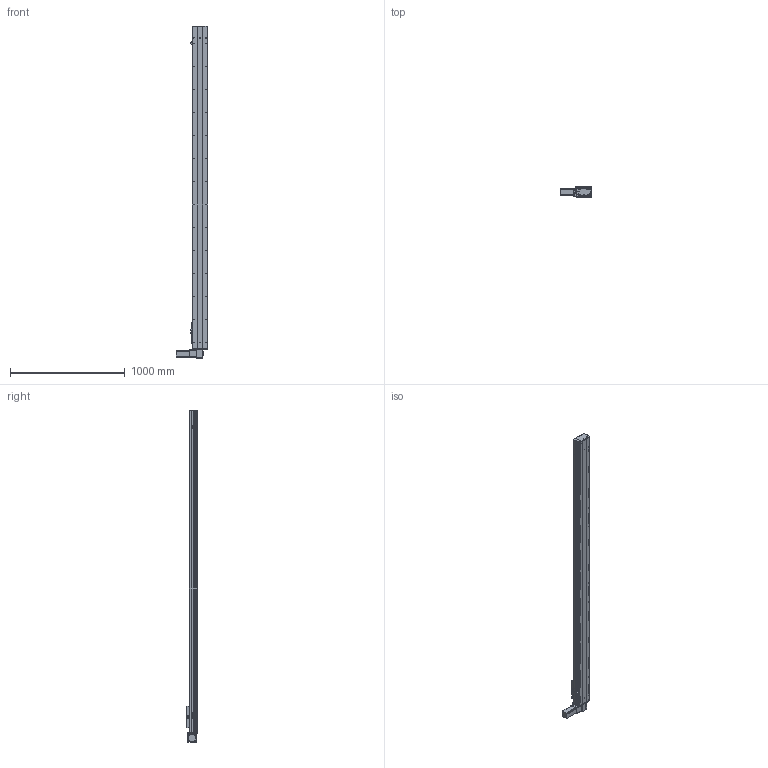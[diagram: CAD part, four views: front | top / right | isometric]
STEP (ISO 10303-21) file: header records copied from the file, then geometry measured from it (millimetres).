
FILE_DESCRIPTION (( 'STEP AP203' ), '1' );
FILE_NAME ('Y135CB-D90-S2500-BD-P400W.STEP', '2020-02-19T06:15:10', ( '微软用户' ), ( '微软中国' ), 'SwSTEP 2.0', 'SolidWorks 2017', '' );
FILE_SCHEMA (( 'CONFIG_CONTROL_DESIGN' ));
Length unit declared in the file: millimetre
Products named in the file (16): Y135C-陔俋离換覜結え-; 5C--俋欶; C-雄赽釱--; Y10B--々湍喘謫眊--666; Y135CB-耜裔; san松下电机400不带刹车----; 0B-薊粣ん眊; 135CB---遴掛极.-; 5CB --掛极耜裔啣-; Y135CB-D90-S2500-BD-P400W; 35CB---喘謫眊楊擘啣; C-詩湍揤踡え-陔; 0B-埴倛裔啣; 135CB--詩湍-CE; 0B-源倛裔啣; Y100-135俋离換覜ん--
Assembly tree (19 placements, depth 2):
  Y135CB-D90-S2500-BD-P400W
    Y135CB-耜裔
    135CB---遴掛极.-
    35CB---喘謫眊楊擘啣
    0B-埴倛裔啣
    0B-源倛裔啣
    san松下电机400不带刹车----
    5CB --掛极耜裔啣-  x2
    C-詩湍揤踡え-陔  x2
    135CB--詩湍-CE
    Y100-135俋离換覜ん--  x3
    Y135C-陔俋离換覜結え-
    5C--俋欶
    C-雄赽釱--
    Y10B--々湍喘謫眊--666
    0B-薊粣ん眊
Bounding box: 272 x 91 x 2888 mm (x, y, z)
Volume: 8282045.3 mm3; surface area: 3236332.6 mm2
Topology: 19 solids, 19 shells, 887 faces, 2410 edges, 1596 vertices
Faces by surface type: cylinder 456, plane 415, cone 16
Entity records: 27622 total; most frequent: DIRECTION 4606, CARTESIAN_POINT 4599, ORIENTED_EDGE 4296, EDGE_CURVE 2148, AXIS2_PLACEMENT_3D 1699, VERTEX_POINT 1424, LINE 1208, VECTOR 1208
